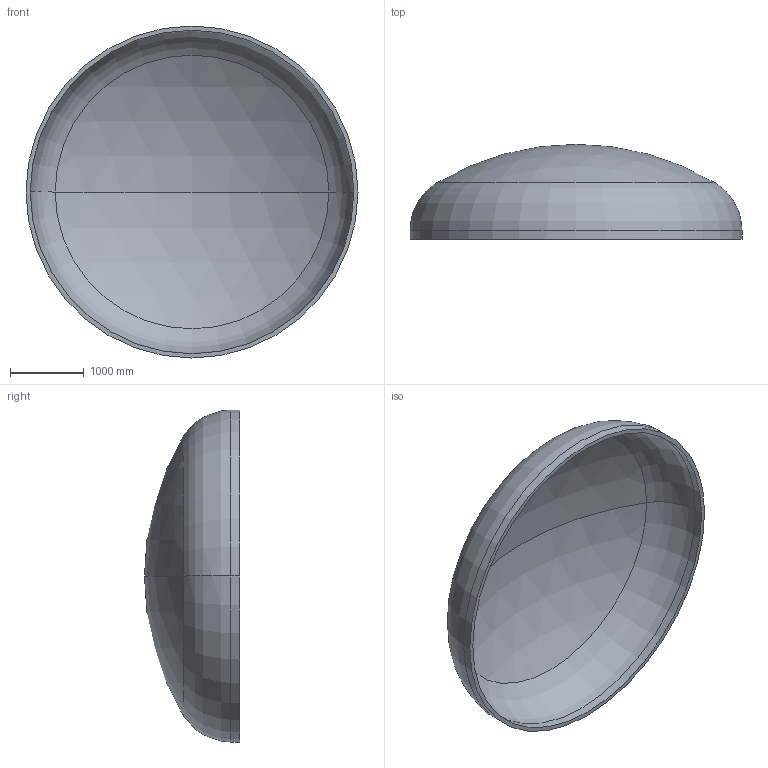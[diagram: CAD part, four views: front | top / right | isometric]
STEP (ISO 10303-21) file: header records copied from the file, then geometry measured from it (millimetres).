
FILE_DESCRIPTION (( 'STEP AP203' ), '1' );
FILE_NAME ('DIN 28013 Korbbogenform_-_Boden DIN 28013 - 4500 x 120 - I - s=58.step', '2016-07-01T23:35:00', ( '' ), ( '' ), 'SwSTEP 2.0', 'SolidWorks 2013', '' );
FILE_SCHEMA (( 'CONFIG_CONTROL_DESIGN' ));
Length unit declared in the file: millimetre
Products named in the file (1): DIN 28013 Korbbogenform_-_Boden DIN 28013 - 4500 x 120 - I - s=58
Bounding box: 4500 x 1288.42 x 4500 mm (x, y, z)
Volume: 1353838847.8 mm3; surface area: 47500514 mm2
Topology: 1 solids, 1 shells, 13 faces, 24 edges, 14 vertices
Faces by surface type: torus 4, cylinder 4, sphere 4, plane 1
Entity records: 407 total; most frequent: DIRECTION 72, CARTESIAN_POINT 52, ORIENTED_EDGE 48, AXIS2_PLACEMENT_3D 34, EDGE_CURVE 24, CIRCLE 20, VERTEX_POINT 14, EDGE_LOOP 14
